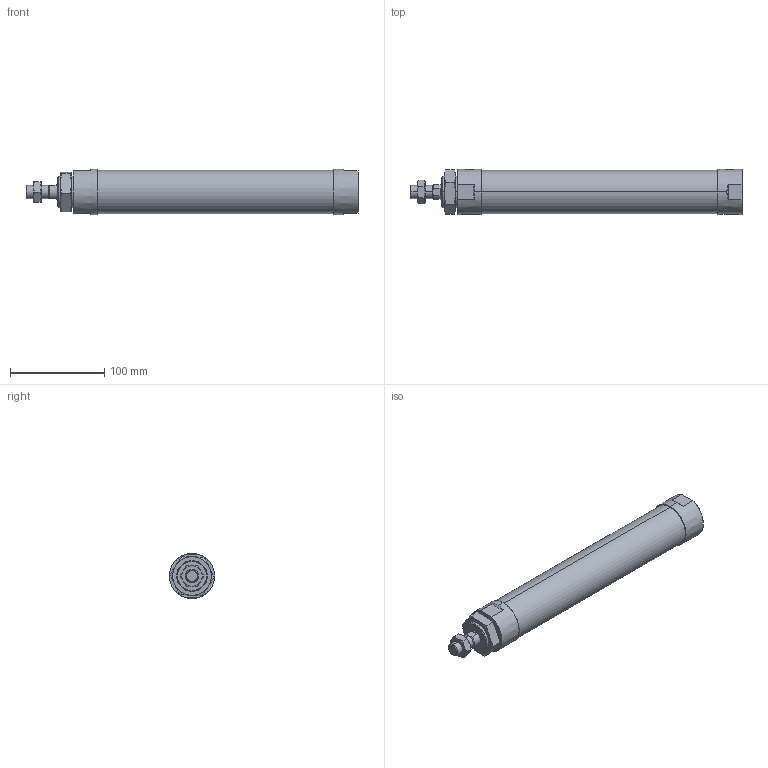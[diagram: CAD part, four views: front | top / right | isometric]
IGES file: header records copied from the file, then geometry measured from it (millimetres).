
Start section: SolidWorks IGES file using analytic representation for surfaces
Global section: file name: C:\Users\Toshiba\Desktop\JGND2-40-200-N.IGS; native system: SolidWorks 2014; preprocessor: SolidWorks 2014; author: Toshiba; date: 160804.111414; units: millimetre
Bounding box: 353 x 48 x 48 mm (x, y, z)
Surface area: 57742.1 mm2 (no closed solid volume)
Topology: 0 solids, 0 shells, 89 faces, 1702 edges, 1698 vertices
Faces by surface type: bspline 56, revolution 33
